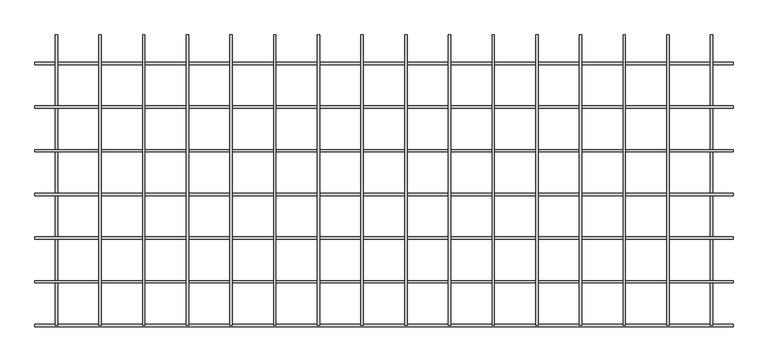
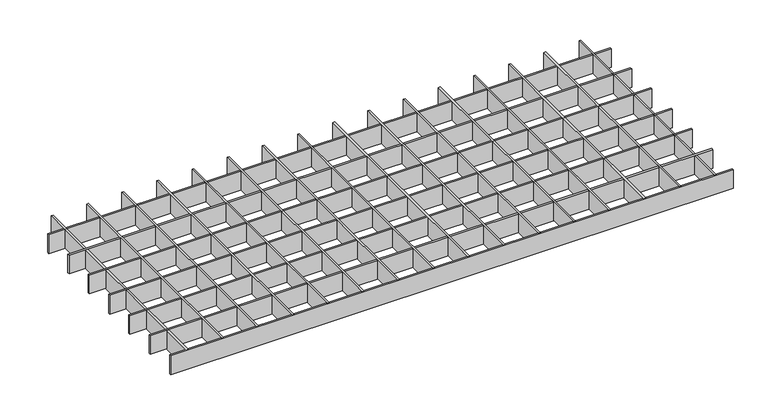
"""IFC4 building model written with IfcOpenShell, lengths in millimetres: proxy geometry, durlum_GEO_panel : durlum_GEO_4_width_cut."""

from ifc_helpers import new_model, si_unit, origin, origin_with_axes, place, context, project, spatial, polyline, outline, extrude, source, transform, mapped, element, save


def generic_models_b27fb88c(model_context):
    return source(origin(), model_context, "Body", "SweptSolid", [
        extrude(outline(polyline([(485.5, 249.5), (489.5, 249.5), (489.5, -249.5), (485.5, -249.5), (485.5, 249.5)])), origin_with_axes(), (0.0, 0.0, 1.0), 42.0),
        extrude(outline(polyline([(410.5, 249.5), (414.5, 249.5), (414.5, -249.5), (410.5, -249.5), (410.5, 249.5)])), origin_with_axes(), (0.0, 0.0, 1.0), 42.0),
        extrude(outline(polyline([(335.5, 249.5), (339.5, 249.5), (339.5, -249.5), (335.5, -249.5), (335.5, 249.5)])), origin_with_axes(), (0.0, 0.0, 1.0), 42.0),
        extrude(outline(polyline([(260.5, 249.5), (264.5, 249.5), (264.5, -249.5), (260.5, -249.5), (260.5, 249.5)])), origin_with_axes(), (0.0, 0.0, 1.0), 42.0),
        extrude(outline(polyline([(185.5, 249.5), (189.5, 249.5), (189.5, -249.5), (185.5, -249.5), (185.5, 249.5)])), origin_with_axes(), (0.0, 0.0, 1.0), 42.0),
        extrude(outline(polyline([(110.5, 249.5), (114.5, 249.5), (114.5, -249.5), (110.5, -249.5), (110.5, 249.5)])), origin_with_axes(), (0.0, 0.0, 1.0), 42.0),
        extrude(outline(polyline([(35.5, 249.5), (39.5, 249.5), (39.5, -249.5), (35.5, -249.5), (35.5, 249.5)])), origin_with_axes(), (0.0, 0.0, 1.0), 42.0),
        extrude(outline(polyline([(-39.5, 249.5), (-35.5, 249.5), (-35.5, -249.5), (-39.5, -249.5), (-39.5, 249.5)])), origin_with_axes(), (0.0, 0.0, 1.0), 42.0),
        extrude(outline(polyline([(-114.5, 249.5), (-110.5, 249.5), (-110.5, -249.5), (-114.5, -249.5), (-114.5, 249.5)])), origin_with_axes(), (0.0, 0.0, 1.0), 42.0),
        extrude(outline(polyline([(-189.5, 249.5), (-185.5, 249.5), (-185.5, -249.5), (-189.5, -249.5), (-189.5, 249.5)])), origin_with_axes(), (0.0, 0.0, 1.0), 42.0),
        extrude(outline(polyline([(-264.5, 249.5), (-260.5, 249.5), (-260.5, -249.5), (-264.5, -249.5), (-264.5, 249.5)])), origin_with_axes(), (0.0, 0.0, 1.0), 42.0),
        extrude(outline(polyline([(-339.5, 249.5), (-335.5, 249.5), (-335.5, -249.5), (-339.5, -249.5), (-339.5, 249.5)])), origin_with_axes(), (0.0, 0.0, 1.0), 42.0),
        extrude(outline(polyline([(-414.5, 249.5), (-410.5, 249.5), (-410.5, -249.5), (-414.5, -249.5), (-414.5, 249.5)])), origin_with_axes(), (0.0, 0.0, 1.0), 42.0),
        extrude(outline(polyline([(-489.5, 249.5), (-485.5, 249.5), (-485.5, -249.5), (-489.5, -249.5), (-489.5, 249.5)])), origin_with_axes(), (0.0, 0.0, 1.0), 42.0),
        extrude(outline(polyline([(599.5, -172.5), (599.5, -176.5), (-599.5, -176.5), (-599.5, -172.5), (599.5, -172.5)])), origin_with_axes(), (0.0, 0.0, 1.0), 42.0),
        extrude(outline(polyline([(599.5, -97.5), (599.5, -101.5), (-599.5, -101.5), (-599.5, -97.5), (599.5, -97.5)])), origin_with_axes(), (0.0, 0.0, 1.0), 42.0),
        extrude(outline(polyline([(599.5, -22.5), (599.5, -26.5), (-599.5, -26.5), (-599.5, -22.5), (599.5, -22.5)])), origin_with_axes(), (0.0, 0.0, 1.0), 42.0),
        extrude(outline(polyline([(599.5, 52.5), (599.5, 48.5), (-599.5, 48.5), (-599.5, 52.5), (599.5, 52.5)])), origin_with_axes(), (0.0, 0.0, 1.0), 42.0),
        extrude(outline(polyline([(599.5, 127.5), (599.5, 123.5), (-599.5, 123.5), (-599.5, 127.5), (599.5, 127.5)])), origin_with_axes(), (0.0, 0.0, 1.0), 42.0),
        extrude(outline(polyline([(560.5, 249.5), (564.5, 249.5), (564.5, -249.5), (560.5, -249.5), (560.5, 249.5)])), origin_with_axes(), (0.0, 0.0, 1.0), 42.0),
        extrude(outline(polyline([(-564.5, 249.5), (-560.5, 249.5), (-560.5, -249.5), (-564.5, -249.5), (-564.5, 249.5)])), origin_with_axes(), (0.0, 0.0, 1.0), 42.0),
        extrude(outline(polyline([(599.5, -247.5), (599.5, -251.5), (-599.5, -251.5), (-599.5, -247.5), (599.5, -247.5)])), origin_with_axes(), (0.0, 0.0, 1.0), 42.0),
        extrude(outline(polyline([(599.5, 202.5), (599.5, 198.5), (-599.5, 198.5), (-599.5, 202.5), (599.5, 202.5)])), origin_with_axes(), (0.0, 0.0, 1.0), 42.0),
    ])


if __name__ == "__main__":
    model = new_model("IFC4")
    model_context = context("Model", 3, world=origin())
    ifc_project = project(units=[si_unit("LENGTHUNIT", "METRE", prefix="MILLI")], contexts=[model_context])
    site = spatial("IfcSite", under=ifc_project)
    building = spatial("IfcBuilding", under=site)
    placement = place(None, origin())
    generic_models_shape = generic_models_b27fb88c(model_context)
    element("IfcBuildingElementProxy", 1, Name="durlum_GEO_panel : durlum_GEO_4_width_cut", ObjectType="durlum_GEO_panel : durlum_GEO_4_width_cut", at=placement, inside=building, context=model_context, shape_type="MappedRepresentation", body=[
        mapped(generic_models_shape, transform((0.0, 0.0, 0.0), x_axis=(1.0, 0.0, 0.0), y_axis=(0.0, 1.0, 0.0), z_axis=(0.0, 0.0, 1.0))),
    ])
    save(model, "model.ifc")
